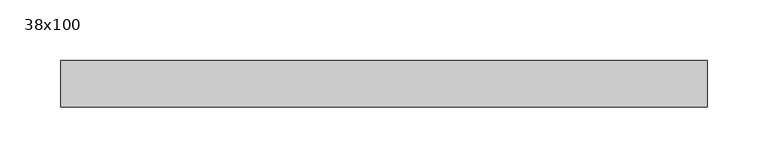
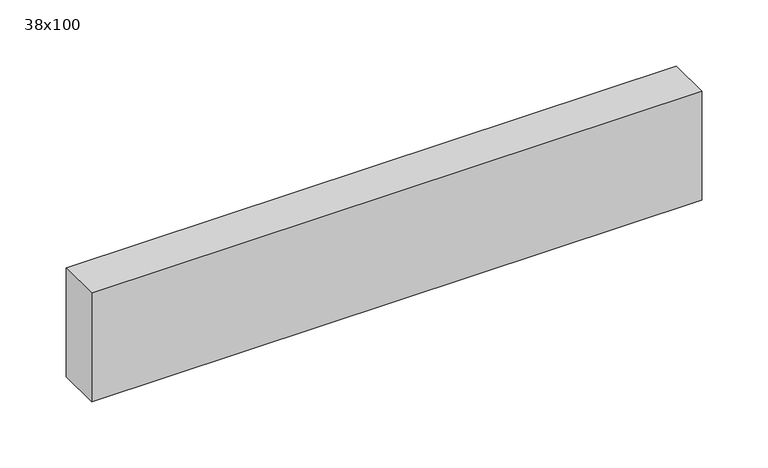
"""IFC4 building model written with IfcOpenShell, lengths in millimetres: beam geometry, Poutre - Bois de construction de dimensions courantes : 38x100."""

from ifc_helpers import new_model, si_unit, frame, origin, place, context, project, spatial, polyline, outline, extrude, source, transform, mapped, element, save


def beam_38x100_9234e0b8(model_context):
    return source(origin(), model_context, "Body", "SweptSolid", [
        extrude(outline(polyline([(108.5, 19.05), (108.5, -19.05), (-422.5, -19.05), (-422.5, 19.05), (108.5, 19.05)])), frame((0.0, 0.0, -50.0), z_axis=(0.0, 0.0, 1.0), x_axis=(1.0, 0.0, 0.0)), (0.0, 0.0, 1.0), 100.0),
    ])


if __name__ == "__main__":
    model = new_model("IFC4")
    model_context = context("Model", 3, world=origin())
    ifc_project = project(units=[si_unit("LENGTHUNIT", "METRE", prefix="MILLI")], contexts=[model_context])
    site = spatial("IfcSite", under=ifc_project)
    building = spatial("IfcBuilding", under=site)
    placement = place(None, origin())
    beam_38x100_shape = beam_38x100_9234e0b8(model_context)
    element("IfcBeam", 1, ObjectType="Poutre - Bois de construction de dimensions courantes : 38x100", at=placement, inside=building, context=model_context, shape_type="MappedRepresentation", body=[
        mapped(beam_38x100_shape, transform((0.0, 0.0, 0.0), x_axis=(1.0, 0.0, 0.0), y_axis=(0.0, 1.0, 0.0), z_axis=(0.0, 0.0, 1.0))),
    ])
    save(model, "model.ifc")
